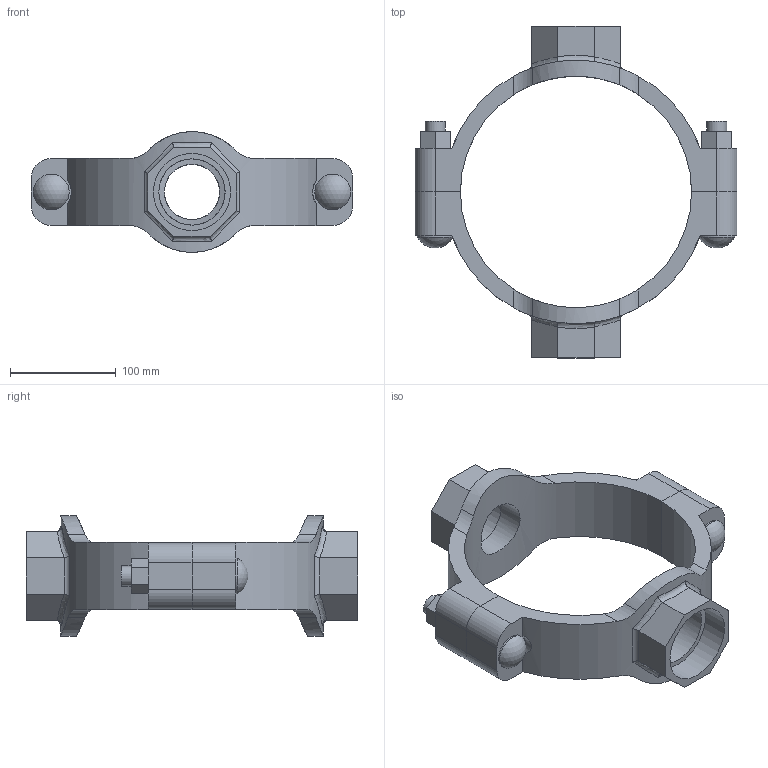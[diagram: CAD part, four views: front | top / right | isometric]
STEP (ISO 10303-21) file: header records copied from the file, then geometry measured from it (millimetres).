
FILE_DESCRIPTION(/* description */ ('VIC MECH-T BRANCH OUTLET CROSS STYLE 920N (THD)','CAx-IF Rec.Pracs.---Representation and Presentation of Product Manufacturing Information (PMI)---4.0---2014-10-13'),/* implementation_level */ '2;1');
FILE_NAME(/* name */ 'C:\Users\Vjadhav\AppData\Roaming\Autodesk\ApplicationPlugins\Back Up\Victaulic_IPS_Mechanical-Cross Outlet_Style 920N (FPT)\Victaulic_IPS_Mechanical-Cross Outlet_08.0x02.0x02.5 (200x50x65).stp',/* time_stamp */ '2020-08-06T19:00:46+06:00',/* author */ ('Vjadhav'),/* organization */ ('Victaulic'),/* preprocessor_version */ 'ST-DEVELOPER v17.2',/* originating_system */ 'Autodesk Inventor 2019',/* authorisation */ '');
FILE_SCHEMA (('AP242_MANAGED_MODEL_BASED_3D_ENGINEERING_MIM_LF { 1 0 10303 442 1 1 4 }'));
Length unit declared in the file: inch
Products named in the file (3): 920NT-08.0x02.0x02.5; 920T-08.0x02.0; 920T-08.0x02.5
Assembly tree (2 placements, depth 2):
  920NT-08.0x02.0x02.5
    920T-08.0x02.0
    920T-08.0x02.5
Bounding box: 304.8 x 314.45 x 114.3 mm (x, y, z)
Volume: 1207278 mm3; surface area: 213881.1 mm2
Topology: 2 solids, 2 shells, 132 faces, 350 edges, 236 vertices
Faces by surface type: plane 68, cylinder 50, bspline 8, torus 4, sphere 2
Full cylindrical faces by diameter (mm): 19.05 x4, 33.843 x2, 52.387 x1, 60.325 x1, 62.738 x1, 73.025 x1
Entity records: 5230 total; most frequent: CARTESIAN_POINT 1717, ORIENTED_EDGE 700, DIRECTION 648, EDGE_CURVE 350, VERTEX_POINT 236, AXIS2_PLACEMENT_3D 231, LINE 186, VECTOR 186
